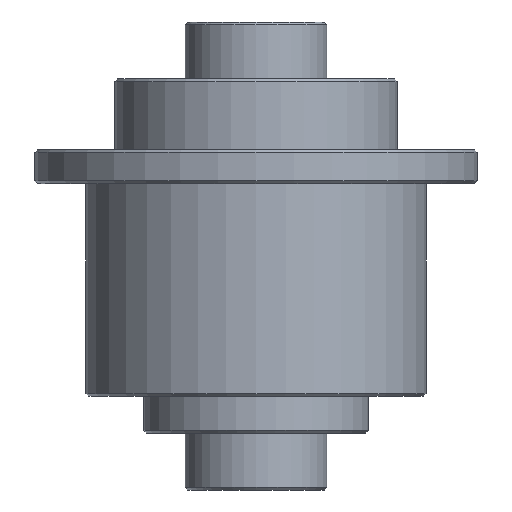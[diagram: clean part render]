
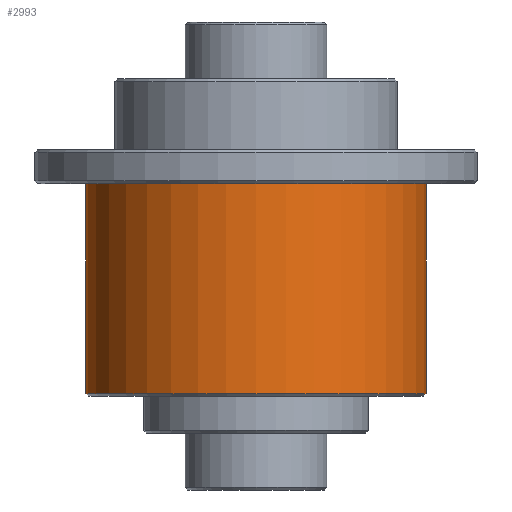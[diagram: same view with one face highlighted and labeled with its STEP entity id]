
A CAD part, front view. The second image highlights one B-rep face of the part: STEP entity #2993.
In plain terms, the highlighted cylindrical face has radius 60 mm (diameter 120 mm), a partial arc.
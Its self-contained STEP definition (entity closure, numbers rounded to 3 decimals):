
#28 = CARTESIAN_POINT ( 'NONE',  ( 0., 0., -111. ) ) ;
#139 = ORIENTED_EDGE ( 'NONE', *, *, #495, .T. ) ;
#179 = DIRECTION ( 'NONE',  ( 1., 0., 0. ) ) ;
#288 = DIRECTION ( 'NONE',  ( 1., 0., 0. ) ) ;
#436 = ORIENTED_EDGE ( 'NONE', *, *, #2535, .F. ) ;
#442 = AXIS2_PLACEMENT_3D ( 'NONE', #2160, #3073, #179 ) ;
#468 = CARTESIAN_POINT ( 'NONE',  ( -60., 0., -37.001 ) ) ;
#495 = EDGE_CURVE ( 'NONE', #1930, #1967, #2467, .T. ) ;
#516 = EDGE_CURVE ( 'NONE', #1237, #523, #1123, .T. ) ;
#523 = VERTEX_POINT ( 'NONE', #2492 ) ;
#562 = CARTESIAN_POINT ( 'NONE',  ( 0., 0., -37.001 ) ) ;
#621 = VECTOR ( 'NONE', #2540, 1000. ) ;
#702 = VECTOR ( 'NONE', #2977, 1000. ) ;
#812 = DIRECTION ( 'NONE',  ( 1., 0., 0. ) ) ;
#1105 = CARTESIAN_POINT ( 'NONE',  ( 60., 0., 4. ) ) ;
#1123 = CIRCLE ( 'NONE', #1777, 60. ) ;
#1237 = VERTEX_POINT ( 'NONE', #468 ) ;
#1280 = LINE ( 'NONE', #1105, #621 ) ;
#1763 = DIRECTION ( 'NONE',  ( 0., 0., 1. ) ) ;
#1777 = AXIS2_PLACEMENT_3D ( 'NONE', #562, #2263, #812 ) ;
#1797 = AXIS2_PLACEMENT_3D ( 'NONE', #28, #1763, #288 ) ;
#1930 = VERTEX_POINT ( 'NONE', #2885 ) ;
#1967 = VERTEX_POINT ( 'NONE', #3104 ) ;
#1975 = LINE ( 'NONE', #2758, #702 ) ;
#2044 = CYLINDRICAL_SURFACE ( 'NONE', #442, 60. ) ;
#2133 = FACE_OUTER_BOUND ( 'NONE', #2214, .T. ) ;
#2160 = CARTESIAN_POINT ( 'NONE',  ( 0., 0., 4. ) ) ;
#2178 = ORIENTED_EDGE ( 'NONE', *, *, #2559, .T. ) ;
#2214 = EDGE_LOOP ( 'NONE', ( #436, #139, #2178, #2253 ) ) ;
#2253 = ORIENTED_EDGE ( 'NONE', *, *, #516, .F. ) ;
#2263 = DIRECTION ( 'NONE',  ( 0., 0., 1. ) ) ;
#2467 = CIRCLE ( 'NONE', #1797, 60. ) ;
#2492 = CARTESIAN_POINT ( 'NONE',  ( 60., 0., -37.001 ) ) ;
#2535 = EDGE_CURVE ( 'NONE', #1930, #1237, #1975, .T. ) ;
#2540 = DIRECTION ( 'NONE',  ( 0., 0., 1. ) ) ;
#2559 = EDGE_CURVE ( 'NONE', #1967, #523, #1280, .T. ) ;
#2758 = CARTESIAN_POINT ( 'NONE',  ( -60., 0., 4. ) ) ;
#2885 = CARTESIAN_POINT ( 'NONE',  ( -60., 0., -111. ) ) ;
#2977 = DIRECTION ( 'NONE',  ( 0., 0., 1. ) ) ;
#2993 = ADVANCED_FACE ( 'NONE', ( #2133 ), #2044, .T. ) ;
#3073 = DIRECTION ( 'NONE',  ( 0., 0., 1. ) ) ;
#3104 = CARTESIAN_POINT ( 'NONE',  ( 60., 0., -111. ) ) ;
